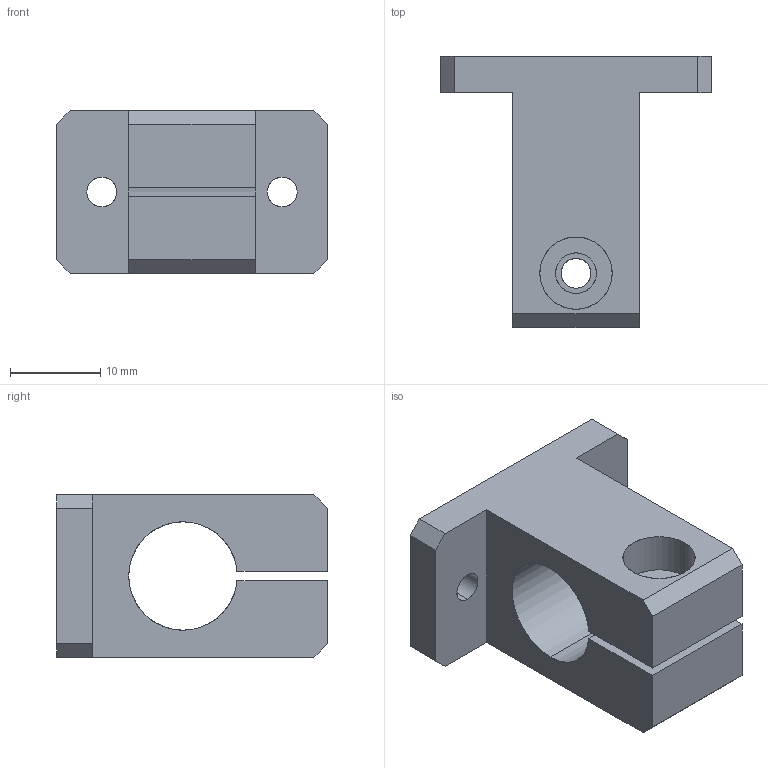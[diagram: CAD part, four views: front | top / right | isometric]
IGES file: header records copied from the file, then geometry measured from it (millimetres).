
Start section: SolidWorks IGES file using analytic representation for surfaces
Global section: file name: C:\Documents and Settings\CAD53\デスクトップ\IGES\N01866-501-1.IGS; native system: SolidWorks 2005 by SolidWorks Corporation; preprocessor: SolidWorks 2005 by SolidWorks Corporation; author: CAD53; date: 070530.113950; units: millimetre
Bounding box: 30 x 30 x 18 mm (x, y, z)
Surface area: 3867.6 mm2 (no closed solid volume)
Topology: 0 solids, 0 shells, 33 faces, 538 edges, 538 vertices
Faces by surface type: bspline 20, revolution 13
